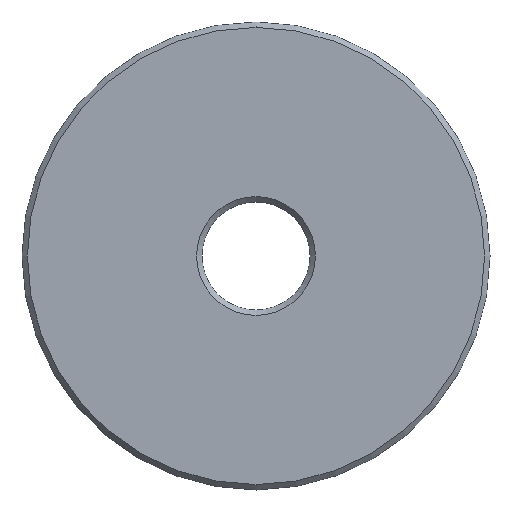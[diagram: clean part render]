
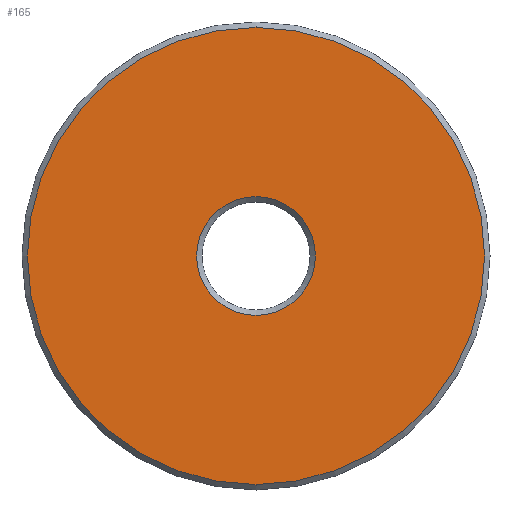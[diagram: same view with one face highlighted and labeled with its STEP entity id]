
A CAD part, front view. The second image highlights one B-rep face of the part: STEP entity #165.
In plain terms, the highlighted planar face has unit normal (0, -1, 0).
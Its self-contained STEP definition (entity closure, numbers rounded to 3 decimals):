
#10 = CIRCLE ( 'NONE', #164, 3.3 ) ;
#18 = ORIENTED_EDGE ( 'NONE', *, *, #343, .T. ) ;
#36 = AXIS2_PLACEMENT_3D ( 'NONE', #192, #39, #97 ) ;
#37 = AXIS2_PLACEMENT_3D ( 'NONE', #326, #329, #393 ) ;
#38 = EDGE_CURVE ( 'NONE', #236, #102, #10, .T. ) ;
#39 = DIRECTION ( 'NONE',  ( 0., -1., 0. ) ) ;
#40 = CARTESIAN_POINT ( 'NONE',  ( 0., 0., 3.3 ) ) ;
#52 = DIRECTION ( 'NONE',  ( 0., 0., 1. ) ) ;
#53 = ORIENTED_EDGE ( 'NONE', *, *, #398, .T. ) ;
#67 = PLANE ( 'NONE',  #360 ) ;
#75 = CARTESIAN_POINT ( 'NONE',  ( 0., 0., 0. ) ) ;
#76 = CIRCLE ( 'NONE', #36, 12.7 ) ;
#97 = DIRECTION ( 'NONE',  ( 0., 0., 1. ) ) ;
#102 = VERTEX_POINT ( 'NONE', #40 ) ;
#118 = DIRECTION ( 'NONE',  ( 0., 1., 0. ) ) ;
#128 = VERTEX_POINT ( 'NONE', #260 ) ;
#142 = CARTESIAN_POINT ( 'NONE',  ( 0., 0., -12.7 ) ) ;
#148 = CIRCLE ( 'NONE', #163, 12.7 ) ;
#151 = VERTEX_POINT ( 'NONE', #142 ) ;
#160 = CARTESIAN_POINT ( 'NONE',  ( 0., 0., 0. ) ) ;
#163 = AXIS2_PLACEMENT_3D ( 'NONE', #160, #193, #184 ) ;
#164 = AXIS2_PLACEMENT_3D ( 'NONE', #75, #325, #320 ) ;
#165 = ADVANCED_FACE ( 'NONE', ( #232, #253 ), #67, .F. ) ;
#184 = DIRECTION ( 'NONE',  ( 0., 0., 1. ) ) ;
#192 = CARTESIAN_POINT ( 'NONE',  ( 0., 0., 0. ) ) ;
#193 = DIRECTION ( 'NONE',  ( 0., -1., 0. ) ) ;
#198 = EDGE_CURVE ( 'NONE', #102, #236, #221, .T. ) ;
#221 = CIRCLE ( 'NONE', #37, 3.3 ) ;
#232 = FACE_BOUND ( 'NONE', #357, .T. ) ;
#236 = VERTEX_POINT ( 'NONE', #272 ) ;
#242 = EDGE_LOOP ( 'NONE', ( #18, #53 ) ) ;
#253 = FACE_OUTER_BOUND ( 'NONE', #242, .T. ) ;
#260 = CARTESIAN_POINT ( 'NONE',  ( 0., 0., 12.7 ) ) ;
#272 = CARTESIAN_POINT ( 'NONE',  ( 0., 0., -3.3 ) ) ;
#320 = DIRECTION ( 'NONE',  ( 0., 0., 1. ) ) ;
#325 = DIRECTION ( 'NONE',  ( 0., 1., 0. ) ) ;
#326 = CARTESIAN_POINT ( 'NONE',  ( 0., 0., 0. ) ) ;
#329 = DIRECTION ( 'NONE',  ( 0., 1., 0. ) ) ;
#343 = EDGE_CURVE ( 'NONE', #128, #151, #148, .T. ) ;
#357 = EDGE_LOOP ( 'NONE', ( #382, #373 ) ) ;
#360 = AXIS2_PLACEMENT_3D ( 'NONE', #376, #118, #52 ) ;
#373 = ORIENTED_EDGE ( 'NONE', *, *, #198, .T. ) ;
#376 = CARTESIAN_POINT ( 'NONE',  ( 0., 0., 0. ) ) ;
#382 = ORIENTED_EDGE ( 'NONE', *, *, #38, .T. ) ;
#393 = DIRECTION ( 'NONE',  ( 0., 0., 1. ) ) ;
#398 = EDGE_CURVE ( 'NONE', #151, #128, #76, .T. ) ;
